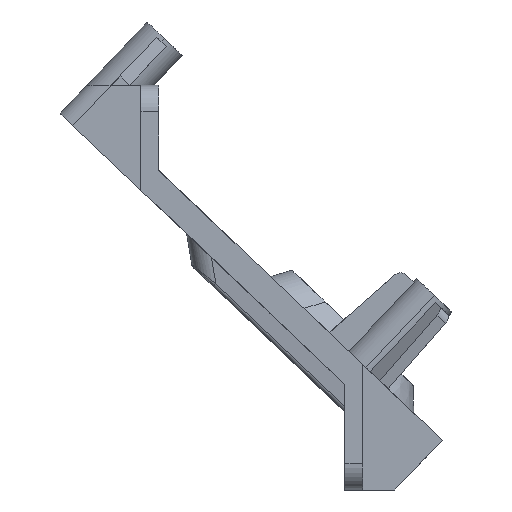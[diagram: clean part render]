
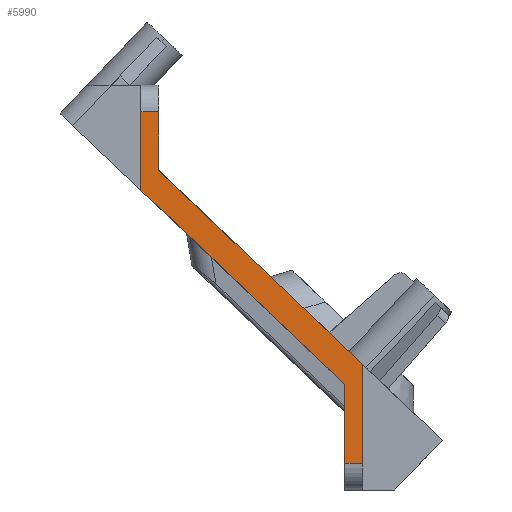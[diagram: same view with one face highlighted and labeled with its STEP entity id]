
A CAD part, left-side view. The second image highlights one B-rep face of the part: STEP entity #5990.
In plain terms, the highlighted planar face has unit normal (-1, 0, 0).
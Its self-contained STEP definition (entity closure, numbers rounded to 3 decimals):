
#374=DIRECTION('',(0.,0.724,0.689));
#375=VECTOR('',#374,31.747);
#376=CARTESIAN_POINT('',(-38.684,16.265,454.2));
#377=LINE('',#376,#375);
#1699=DIRECTION('',(0.,-1.,0.));
#1700=VECTOR('',#1699,2.);
#1701=CARTESIAN_POINT('',(-38.684,41.265,482.7));
#1702=LINE('',#1701,#1700);
#1703=DIRECTION('',(0.,0.,-1.));
#1704=VECTOR('',#1703,6.617);
#1705=CARTESIAN_POINT('',(-38.684,39.265,482.7));
#1706=LINE('',#1705,#1704);
#1707=DIRECTION('',(0.,0.,-1.));
#1708=VECTOR('',#1707,11.171);
#1709=CARTESIAN_POINT('',(-38.684,16.265,454.2));
#1710=LINE('',#1709,#1708);
#1711=DIRECTION('',(0.,1.,0.));
#1712=VECTOR('',#1711,2.);
#1713=CARTESIAN_POINT('',(-38.684,16.265,443.028));
#1714=LINE('',#1713,#1712);
#1715=DIRECTION('',(0.,0.,1.));
#1716=VECTOR('',#1715,8.933);
#1717=CARTESIAN_POINT('',(-38.684,18.265,443.028));
#1718=LINE('',#1717,#1716);
#1719=DIRECTION('',(0.,0.724,0.689));
#1720=VECTOR('',#1719,31.747);
#1721=CARTESIAN_POINT('',(-38.684,18.265,451.962));
#1722=LINE('',#1721,#1720);
#1723=DIRECTION('',(0.,0.,1.));
#1724=VECTOR('',#1723,8.855);
#1725=CARTESIAN_POINT('',(-38.684,41.265,473.845));
#1726=LINE('',#1725,#1724);
#3345=CARTESIAN_POINT('',(-38.684,16.265,454.2));
#3346=VERTEX_POINT('',#3345);
#3347=CARTESIAN_POINT('',(-38.684,39.265,476.083));
#3348=VERTEX_POINT('',#3347);
#3505=CARTESIAN_POINT('',(-38.684,41.265,473.845));
#3506=VERTEX_POINT('',#3505);
#3507=CARTESIAN_POINT('',(-38.684,18.265,451.962));
#3508=VERTEX_POINT('',#3507);
#3803=CARTESIAN_POINT('',(-38.684,39.265,482.7));
#3804=VERTEX_POINT('',#3803);
#3810=CARTESIAN_POINT('',(-38.684,41.265,482.7));
#3811=VERTEX_POINT('',#3810);
#3817=CARTESIAN_POINT('',(-38.684,16.265,443.028));
#3818=VERTEX_POINT('',#3817);
#3819=CARTESIAN_POINT('',(-38.684,18.265,443.028));
#3820=VERTEX_POINT('',#3819);
#5972=CARTESIAN_POINT('',(-38.684,47.423,485.645));
#5973=DIRECTION('',(1.,0.,0.));
#5974=DIRECTION('',(0.,0.689,-0.724));
#5975=AXIS2_PLACEMENT_3D('',#5972,#5973,#5974);
#5976=PLANE('',#5975);
#5978=ORIENTED_EDGE('',*,*,#5977,.T.);
#5980=ORIENTED_EDGE('',*,*,#5979,.T.);
#5981=ORIENTED_EDGE('',*,*,#4378,.F.);
#5982=ORIENTED_EDGE('',*,*,#5884,.T.);
#5983=ORIENTED_EDGE('',*,*,#5912,.T.);
#5984=ORIENTED_EDGE('',*,*,#5831,.T.);
#5985=ORIENTED_EDGE('',*,*,#5338,.T.);
#5987=ORIENTED_EDGE('',*,*,#5986,.T.);
#5988=EDGE_LOOP('',(#5978,#5980,#5981,#5982,#5983,#5984,#5985,#5987));
#5989=FACE_OUTER_BOUND('',#5988,.F.);
#5990=ADVANCED_FACE('',(#5989),#5976,.F.);
#4378=EDGE_CURVE('',#3346,#3348,#377,.T.);
#5338=EDGE_CURVE('',#3508,#3506,#1722,.T.);
#5831=EDGE_CURVE('',#3820,#3508,#1718,.T.);
#5884=EDGE_CURVE('',#3346,#3818,#1710,.T.);
#5912=EDGE_CURVE('',#3818,#3820,#1714,.T.);
#5977=EDGE_CURVE('',#3811,#3804,#1702,.T.);
#5979=EDGE_CURVE('',#3804,#3348,#1706,.T.);
#5986=EDGE_CURVE('',#3506,#3811,#1726,.T.);
